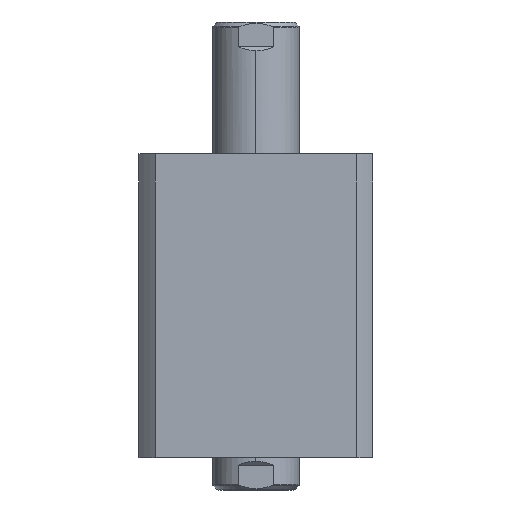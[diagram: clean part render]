
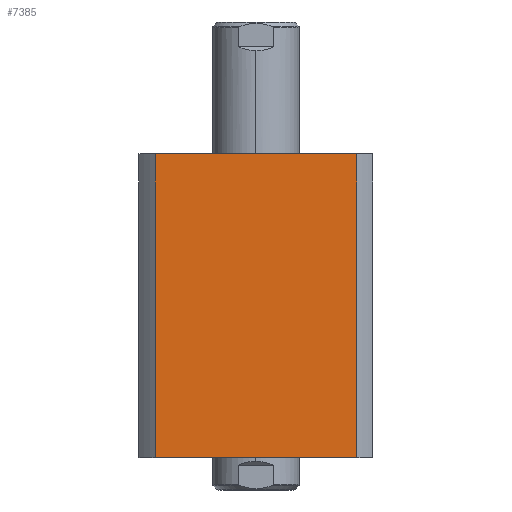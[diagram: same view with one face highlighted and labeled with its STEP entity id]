
A CAD part, left-side view. The second image highlights one B-rep face of the part: STEP entity #7385.
In plain terms, the highlighted planar face has unit normal (-1, 0, 0).
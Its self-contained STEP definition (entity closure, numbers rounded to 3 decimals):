
#566 = ORIENTED_EDGE ( 'NONE', *, *, #8297, .F. ) ;
#891 = CARTESIAN_POINT ( 'NONE',  ( -47., -40.435, 300. ) ) ;
#1010 = ORIENTED_EDGE ( 'NONE', *, *, #15547, .F. ) ;
#1267 = VERTEX_POINT ( 'NONE', #2250 ) ;
#2250 = CARTESIAN_POINT ( 'NONE',  ( -47., 40.435, 122. ) ) ;
#3489 = ORIENTED_EDGE ( 'NONE', *, *, #10716, .F. ) ;
#4990 = VECTOR ( 'NONE', #8838, 1000. ) ;
#5422 = LINE ( 'NONE', #7391, #4990 ) ;
#6019 = CARTESIAN_POINT ( 'NONE',  ( -47., 40.435, 0. ) ) ;
#6192 = VERTEX_POINT ( 'NONE', #15414 ) ;
#6570 = CARTESIAN_POINT ( 'NONE',  ( -47., 47., 122. ) ) ;
#6893 = CARTESIAN_POINT ( 'NONE',  ( -47., -40.435, 122. ) ) ;
#7385 = ADVANCED_FACE ( 'NONE', ( #11959 ), #16552, .F. ) ;
#7391 = CARTESIAN_POINT ( 'NONE',  ( -47., 40.435, 300. ) ) ;
#8049 = DIRECTION ( 'NONE',  ( 1., 0., 0. ) ) ;
#8297 = EDGE_CURVE ( 'NONE', #1267, #9338, #16391, .T. ) ;
#8838 = DIRECTION ( 'NONE',  ( 0., 0., 1. ) ) ;
#9204 = DIRECTION ( 'NONE',  ( 0., -1., 0. ) ) ;
#9338 = VERTEX_POINT ( 'NONE', #6893 ) ;
#9872 = VECTOR ( 'NONE', #10870, 1000. ) ;
#10555 = EDGE_CURVE ( 'NONE', #13224, #6192, #10775, .T. ) ;
#10571 = DIRECTION ( 'NONE',  ( 0., -1., 0. ) ) ;
#10716 = EDGE_CURVE ( 'NONE', #9338, #6192, #13670, .T. ) ;
#10741 = EDGE_LOOP ( 'NONE', ( #3489, #566, #1010, #12816 ) ) ;
#10775 = LINE ( 'NONE', #14850, #18323 ) ;
#10870 = DIRECTION ( 'NONE',  ( 0., 0., -1. ) ) ;
#11959 = FACE_OUTER_BOUND ( 'NONE', #10741, .T. ) ;
#12601 = VECTOR ( 'NONE', #10571, 1000. ) ;
#12816 = ORIENTED_EDGE ( 'NONE', *, *, #10555, .T. ) ;
#13224 = VERTEX_POINT ( 'NONE', #6019 ) ;
#13670 = LINE ( 'NONE', #891, #9872 ) ;
#14022 = AXIS2_PLACEMENT_3D ( 'NONE', #6570, #8049, #17993 ) ;
#14850 = CARTESIAN_POINT ( 'NONE',  ( -47., 47., 0. ) ) ;
#15414 = CARTESIAN_POINT ( 'NONE',  ( -47., -40.435, 0. ) ) ;
#15547 = EDGE_CURVE ( 'NONE', #13224, #1267, #5422, .T. ) ;
#16391 = LINE ( 'NONE', #17674, #12601 ) ;
#16552 = PLANE ( 'NONE',  #14022 ) ;
#17674 = CARTESIAN_POINT ( 'NONE',  ( -47., 47., 122. ) ) ;
#17993 = DIRECTION ( 'NONE',  ( 0., 1., 0. ) ) ;
#18323 = VECTOR ( 'NONE', #9204, 1000. ) ;
